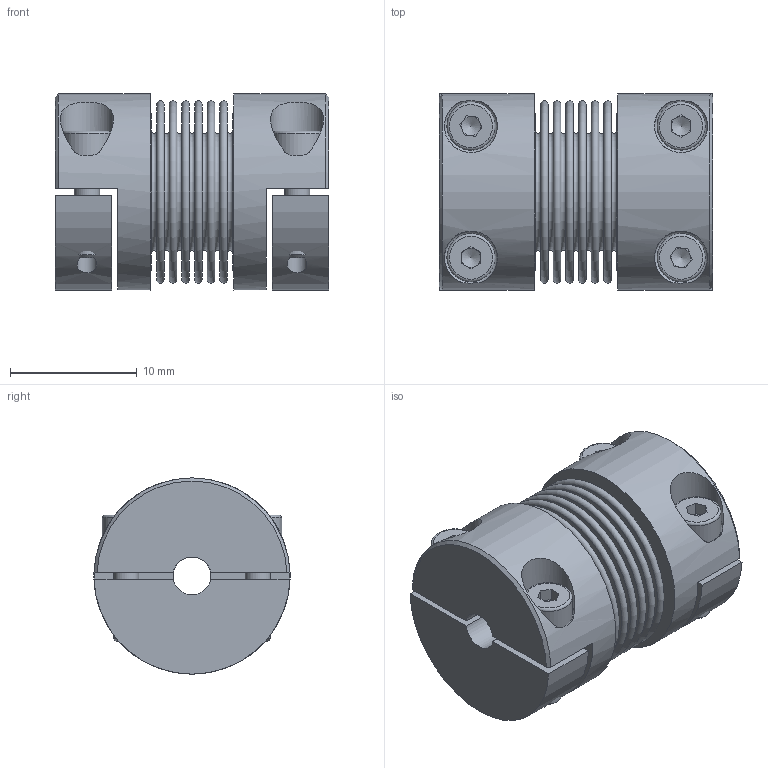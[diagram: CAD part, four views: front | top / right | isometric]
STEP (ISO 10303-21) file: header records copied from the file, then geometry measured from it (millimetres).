
FILE_DESCRIPTION( ( 'Unknown' ), '1' );
FILE_NAME( 'K:/Konstruktion/KB2H/KB2H-5-21.stp', 'Unknown', ( 'Unknown' ), ( 'Unknown' ), 'PSStep 16.0.42', 'Unknown', ' ' );
FILE_SCHEMA( ( 'AUTOMOTIVE_DESIGN { 1 0 10303 214 1 1 1 1 }' ) );
Length unit declared in the file: millimetre
Products named in the file (5): Assem1; KNH-5; Socket Head Cap Screw_DIN_DIN 912 M2 x 8 --- 8N_11; BK5_Standard_0
Assembly tree (9 placements, depth 2):
  Assem1
    KNH-5  x2
    KNH-5  x2
    Socket Head Cap Screw_DIN_DIN 912 M2 x 8 --- 8N_11  x4
    BK5_Standard_0
Bounding box: 21.6 x 15.5 x 15.5 mm (x, y, z)
Volume: 2680.4 mm3; surface area: 5903.1 mm2
Topology: 9 solids, 9 shells, 196 faces, 394 edges, 250 vertices
Faces by surface type: plane 112, torus 42, cylinder 32, cone 10
Full cylindrical faces by diameter (mm): 1.567 x4, 2 x4, 2.2 x4, 3 x2, 3.8 x4, 12.9 x2, 13.1 x2, 15.5 x2
Entity records: 3664 total; most frequent: CARTESIAN_POINT 593, DIRECTION 474, ORIENTED_EDGE 292, AXIS2_PLACEMENT_3D 217, EDGE_LOOP 199, FACE_OUTER_BOUND 155, EDGE_CURVE 146, VERTEX_POINT 136
